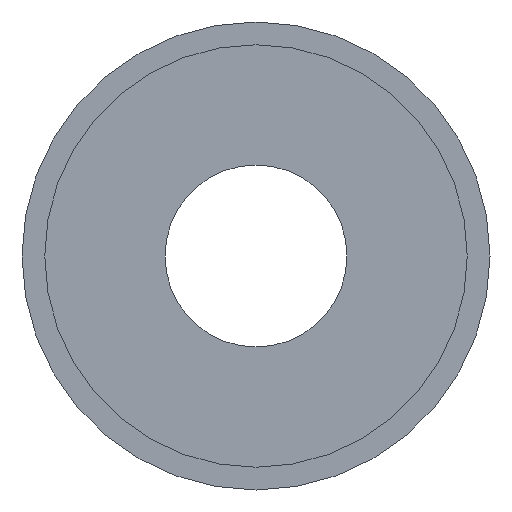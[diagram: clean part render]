
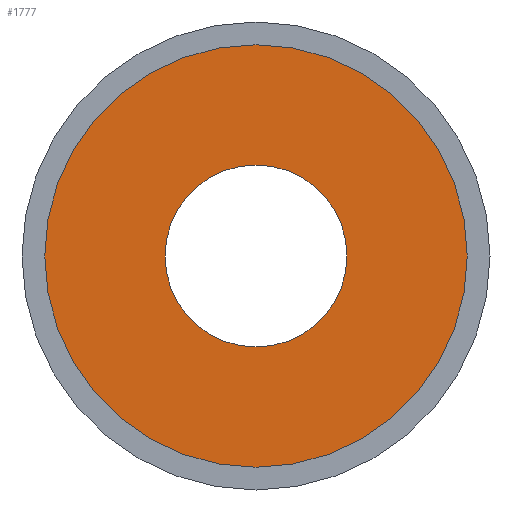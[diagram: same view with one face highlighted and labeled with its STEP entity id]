
A CAD part, front view. The second image highlights one B-rep face of the part: STEP entity #1777.
In plain terms, the highlighted planar face has unit normal (0, -1, 0).
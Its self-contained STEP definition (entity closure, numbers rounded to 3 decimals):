
#83 = CARTESIAN_POINT ( 'NONE',  ( 0., -15., 0. ) ) ;
#124 = DIRECTION ( 'NONE',  ( 0., -1., 0. ) ) ;
#141 = CARTESIAN_POINT ( 'NONE',  ( 0., -15., 0. ) ) ;
#147 = DIRECTION ( 'NONE',  ( 0., 1., 0. ) ) ;
#416 = EDGE_CURVE ( 'NONE', #1508, #981, #686, .T. ) ;
#418 = FACE_OUTER_BOUND ( 'NONE', #578, .T. ) ;
#424 = CARTESIAN_POINT ( 'NONE',  ( 0., -15., 14. ) ) ;
#445 = AXIS2_PLACEMENT_3D ( 'NONE', #1872, #147, #492 ) ;
#492 = DIRECTION ( 'NONE',  ( 0., 0., 1. ) ) ;
#578 = EDGE_LOOP ( 'NONE', ( #1754, #1611 ) ) ;
#613 = ORIENTED_EDGE ( 'NONE', *, *, #896, .F. ) ;
#686 = CIRCLE ( 'NONE', #772, 14. ) ;
#752 = EDGE_CURVE ( 'NONE', #2067, #1002, #2304, .T. ) ;
#772 = AXIS2_PLACEMENT_3D ( 'NONE', #1738, #1744, #1912 ) ;
#869 = EDGE_LOOP ( 'NONE', ( #613, #1691 ) ) ;
#896 = EDGE_CURVE ( 'NONE', #981, #1508, #1767, .T. ) ;
#981 = VERTEX_POINT ( 'NONE', #1362 ) ;
#982 = CIRCLE ( 'NONE', #2293, 32.5 ) ;
#990 = DIRECTION ( 'NONE',  ( 0., -1., 0. ) ) ;
#1002 = VERTEX_POINT ( 'NONE', #2141 ) ;
#1034 = DIRECTION ( 'NONE',  ( 0., -1., 0. ) ) ;
#1362 = CARTESIAN_POINT ( 'NONE',  ( 0., -15., -14. ) ) ;
#1430 = DIRECTION ( 'NONE',  ( 0., 0., -1. ) ) ;
#1466 = DIRECTION ( 'NONE',  ( 0., 0., -1. ) ) ;
#1508 = VERTEX_POINT ( 'NONE', #424 ) ;
#1570 = DIRECTION ( 'NONE',  ( 0., 0., -1. ) ) ;
#1609 = AXIS2_PLACEMENT_3D ( 'NONE', #141, #124, #1466 ) ;
#1611 = ORIENTED_EDGE ( 'NONE', *, *, #2139, .T. ) ;
#1633 = CARTESIAN_POINT ( 'NONE',  ( 0., -15., -32.5 ) ) ;
#1674 = PLANE ( 'NONE',  #445 ) ;
#1691 = ORIENTED_EDGE ( 'NONE', *, *, #416, .F. ) ;
#1738 = CARTESIAN_POINT ( 'NONE',  ( 0., -15., 0. ) ) ;
#1744 = DIRECTION ( 'NONE',  ( 0., -1., 0. ) ) ;
#1754 = ORIENTED_EDGE ( 'NONE', *, *, #752, .T. ) ;
#1767 = CIRCLE ( 'NONE', #2241, 14. ) ;
#1777 = ADVANCED_FACE ( 'NONE', ( #1785, #418 ), #1674, .F. ) ;
#1785 = FACE_BOUND ( 'NONE', #869, .T. ) ;
#1872 = CARTESIAN_POINT ( 'NONE',  ( 0., -15., 14. ) ) ;
#1912 = DIRECTION ( 'NONE',  ( 0., 0., -1. ) ) ;
#2067 = VERTEX_POINT ( 'NONE', #1633 ) ;
#2139 = EDGE_CURVE ( 'NONE', #1002, #2067, #982, .T. ) ;
#2141 = CARTESIAN_POINT ( 'NONE',  ( 0., -15., 32.5 ) ) ;
#2241 = AXIS2_PLACEMENT_3D ( 'NONE', #2301, #990, #1570 ) ;
#2293 = AXIS2_PLACEMENT_3D ( 'NONE', #83, #1034, #1430 ) ;
#2301 = CARTESIAN_POINT ( 'NONE',  ( 0., -15., 0. ) ) ;
#2304 = CIRCLE ( 'NONE', #1609, 32.5 ) ;
